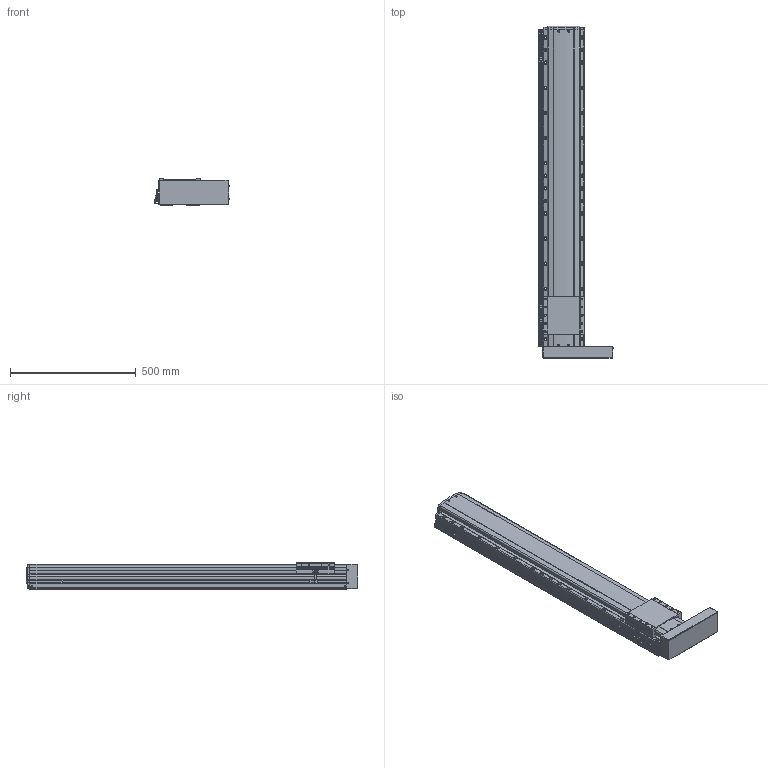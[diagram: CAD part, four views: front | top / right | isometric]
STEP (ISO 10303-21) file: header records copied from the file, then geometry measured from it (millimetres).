
FILE_DESCRIPTION(('STEP AP214'),'1');
FILE_NAME('Z:/Web/3D/PSA165/STP/PSA165-1000 (3D)/PSA165ㅁㅁ-1000PR+3SL.stp','2014-06-24T10:27:53',(' '),(' '),'Spatial InterOp 3D',' ',' ');
FILE_SCHEMA(('automotive_design'));
Length unit declared in the file: millimetre
Products named in the file (41): 스크루 : Round - M4.0 x 12.0; RRCV-PA160; BASE; 스크루 : Round - M4.0 x 10.0; RN15; Screw 20; SLIDE; FRCV; MTPL; 스크루 : Round - M3.0 x 6.0; M3.0 x 6.0; SRL-16x17-360L; SGD-SAN150; EE-SX674; SBK-SX674-352; BHCS M4.0 x 10.0
Bounding box: 294.46 x 1320.8 x 104 mm (x, y, z)
Volume: 18834041.9 mm3; surface area: 1307064.4 mm2
Topology: 41 solids, 41 shells, 2624 faces, 7041 edges, 4513 vertices
Faces by surface type: plane 1467, cylinder 819, cone 233, sphere 64, bspline 25, torus 16
Entity records: 106573 total; most frequent: CARTESIAN_POINT 18533, DIRECTION 14019, ORIENTED_EDGE 13758, EDGE_CURVE 6879, AXIS2_PLACEMENT_3D 4733, LINE 4553, VECTOR 4553, VERTEX_POINT 4513
